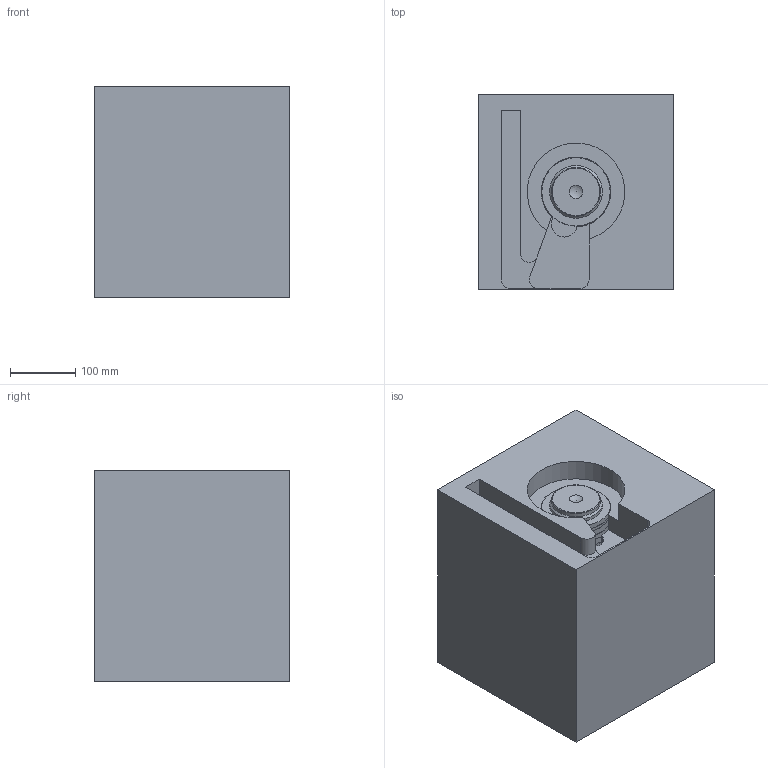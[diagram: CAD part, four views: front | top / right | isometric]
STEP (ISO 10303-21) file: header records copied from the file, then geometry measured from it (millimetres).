
FILE_DESCRIPTION( ( 'STEP AP214' ), '1' );
FILE_NAME( 'G:/PROIECTE_YUDO_2009_dupa_1.07.2009/PROIECTE YUDO 3D 01.07.2009/SAS/YUEU09-SAS32VC292-4/YUEU09-SAS32VC292.step', '2009-10-01T11:49:25', ( ' ' ), ( ' ' ), 'XStep 1.0', ' ', ' ' );
FILE_SCHEMA( ( 'automotive_design' ) );
Length unit declared in the file: millimetre
Products named in the file (4): 1; 2; 3; 4
Bounding box: 300 x 300 x 325 mm (x, y, z)
Volume: 27914045.9 mm3; surface area: 786569.8 mm2
Topology: 4 solids, 4 shells, 100 faces, 198 edges, 129 vertices
Faces by surface type: plane 47, cylinder 37, cone 11, torus 4, sphere 1
Full cylindrical faces by diameter (mm): 4 x2, 6 x6, 6.5 x1, 20 x1, 24 x1, 31 x1, 32 x3, 32.1 x1, 44 x1, 47 x1, 75 x1, 81 x1, 104 x4, 105 x5
Entity records: 3169 total; most frequent: DIRECTION 440, CARTESIAN_POINT 375, ORIENTED_EDGE 290, AXIS2_PLACEMENT_3D 193, EDGE_LOOP 171, EDGE_CURVE 145, FACE_OUTER_BOUND 133, VERTEX_POINT 120
